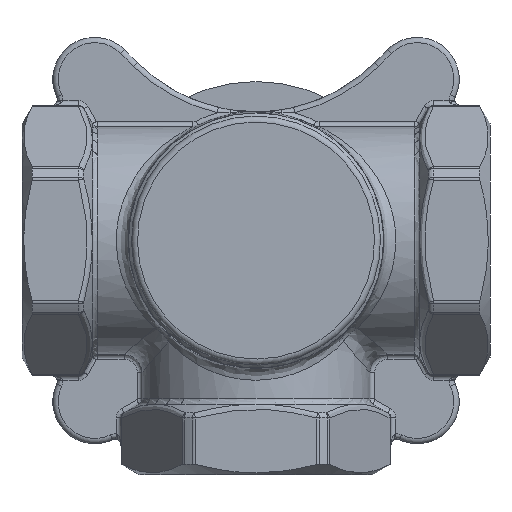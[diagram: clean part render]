
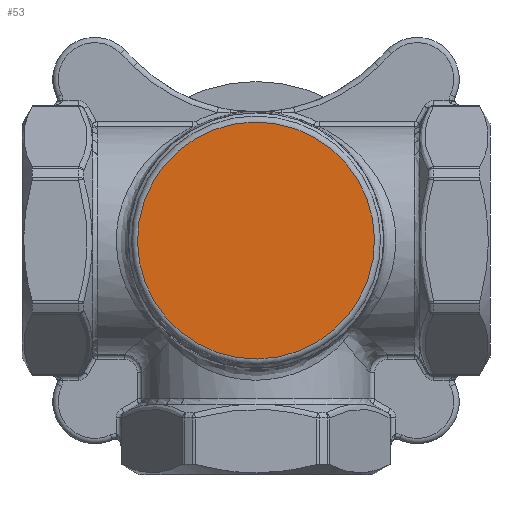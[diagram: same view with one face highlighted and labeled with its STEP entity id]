
A CAD part, front view. The second image highlights one B-rep face of the part: STEP entity #53.
In plain terms, the highlighted planar face has unit normal (0, -1, 0).
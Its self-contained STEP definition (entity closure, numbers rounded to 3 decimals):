
#53=ADVANCED_FACE('',(#872),#874,.T.);
#872=FACE_BOUND('',#873,.T.);
#873=EDGE_LOOP('',(#13289));
#874=PLANE('',#875);
#875=AXIS2_PLACEMENT_3D('',#876,#877,#878);
#876=CARTESIAN_POINT('',(-4.499,-27.,-0.07));
#877=DIRECTION('',(0.,-1.,0.));
#878=DIRECTION('',(0.015,0.,-1.));
#13289=ORIENTED_EDGE('',*,*,#16942,.F.);
#16942=EDGE_CURVE('',#18805,#18805,#18806,.T.);
#18805=VERTEX_POINT('',#21860);
#18806=CIRCLE('',#21861,19.75);
#21860=CARTESIAN_POINT('',(0.306,-27.,-19.748));
#21861=AXIS2_PLACEMENT_3D('',#21862,#21863,#21864);
#21862=CARTESIAN_POINT('',(0.,-27.,0.));
#21863=DIRECTION('',(0.,1.,0.));
#21864=DIRECTION('',(0.015,0.,-1.));
